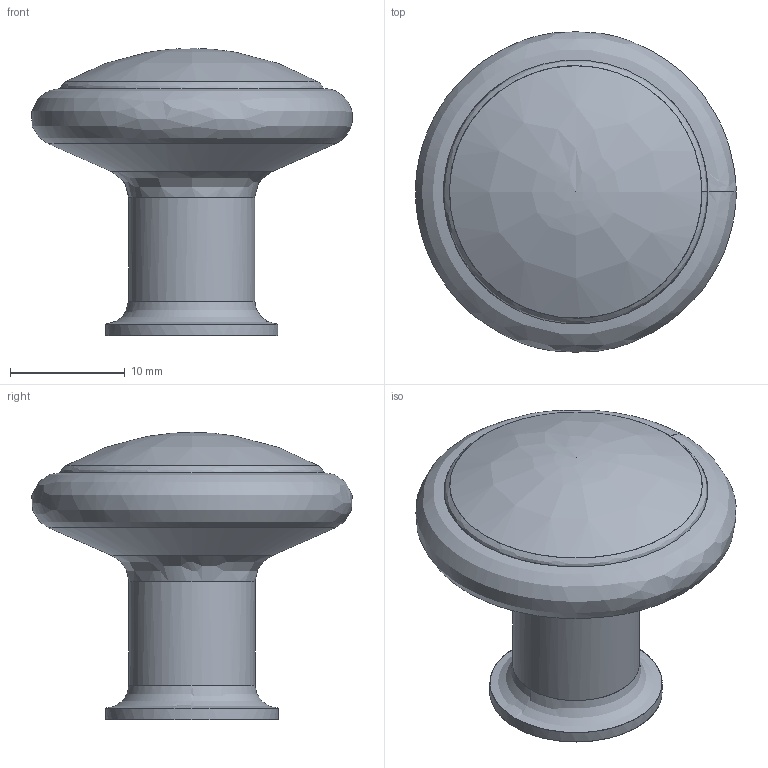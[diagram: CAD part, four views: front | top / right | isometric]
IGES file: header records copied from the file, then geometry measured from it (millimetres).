
Start section: C
Global section: file name: 0391-28.igs; native system: By Siemens PLM Incorporated; preprocessor: XPlus GENERIC/IGES 16.0.42; author: Author; organization: Title; date: 20231211.121018; units: millimetre
Bounding box: 27.95 x 27.89 x 25 mm (x, y, z)
Surface area: 4207.1 mm2 (no closed solid volume)
Topology: 0 solids, 0 shells, 29 faces, 161 edges, 160 vertices
Faces by surface type: bspline 29
